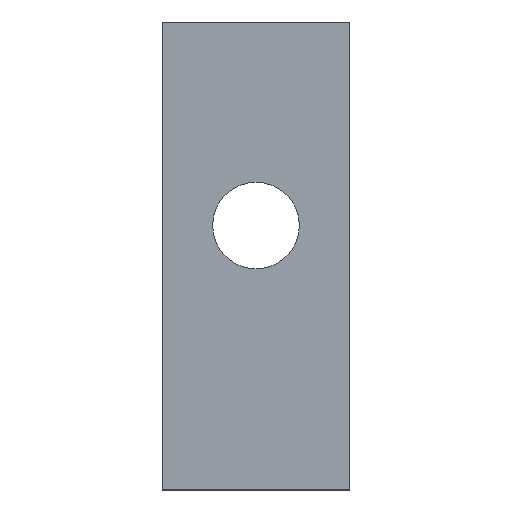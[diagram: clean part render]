
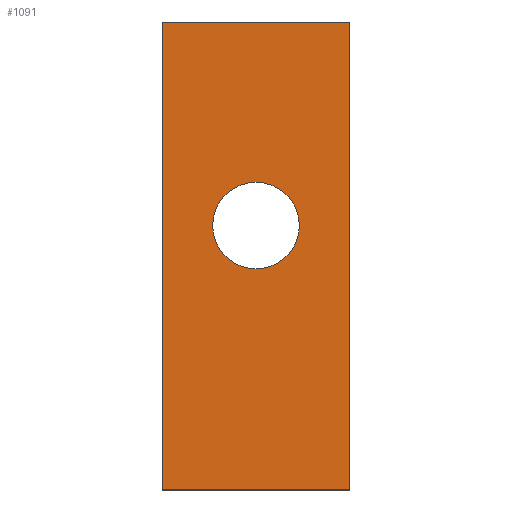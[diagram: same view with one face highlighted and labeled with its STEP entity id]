
A CAD part, left-side view. The second image highlights one B-rep face of the part: STEP entity #1091.
In plain terms, the highlighted planar face has unit normal (-1, 0, 0).
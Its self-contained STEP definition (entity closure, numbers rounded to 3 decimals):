
#16 = AXIS2_PLACEMENT_3D ( 'NONE', #23, #648, #102 ) ;
#21 = CARTESIAN_POINT ( 'NONE',  ( 0., 0., 0. ) ) ;
#23 = CARTESIAN_POINT ( 'NONE',  ( 0., 8., -20. ) ) ;
#26 = CARTESIAN_POINT ( 'NONE',  ( 0., 0., -20. ) ) ;
#37 = VECTOR ( 'NONE', #734, 1000. ) ;
#58 = LINE ( 'NONE', #183, #741 ) ;
#77 = EDGE_LOOP ( 'NONE', ( #1006, #1084 ) ) ;
#79 = DIRECTION ( 'NONE',  ( 0., -1., 0. ) ) ;
#102 = DIRECTION ( 'NONE',  ( 0., 0., -1. ) ) ;
#105 = CARTESIAN_POINT ( 'NONE',  ( 0., 8., 0. ) ) ;
#147 = EDGE_CURVE ( 'NONE', #252, #1057, #231, .T. ) ;
#169 = CIRCLE ( 'NONE', #563, 1.85 ) ;
#179 = VERTEX_POINT ( 'NONE', #915 ) ;
#180 = EDGE_CURVE ( 'NONE', #179, #707, #838, .T. ) ;
#183 = CARTESIAN_POINT ( 'NONE',  ( 0., 8., -20. ) ) ;
#225 = LINE ( 'NONE', #261, #1144 ) ;
#231 = CIRCLE ( 'NONE', #689, 1.85 ) ;
#252 = VERTEX_POINT ( 'NONE', #434 ) ;
#261 = CARTESIAN_POINT ( 'NONE',  ( 0., 8., 0. ) ) ;
#434 = CARTESIAN_POINT ( 'NONE',  ( 0., 4., -10.55 ) ) ;
#442 = DIRECTION ( 'NONE',  ( -1., 0., 0. ) ) ;
#541 = LINE ( 'NONE', #26, #37 ) ;
#563 = AXIS2_PLACEMENT_3D ( 'NONE', #961, #442, #1049 ) ;
#569 = FACE_BOUND ( 'NONE', #77, .T. ) ;
#585 = ORIENTED_EDGE ( 'NONE', *, *, #180, .T. ) ;
#602 = CARTESIAN_POINT ( 'NONE',  ( 0., 0., -20. ) ) ;
#612 = ORIENTED_EDGE ( 'NONE', *, *, #1126, .T. ) ;
#648 = DIRECTION ( 'NONE',  ( 1., 0., 0. ) ) ;
#689 = AXIS2_PLACEMENT_3D ( 'NONE', #870, #863, #858 ) ;
#707 = VERTEX_POINT ( 'NONE', #602 ) ;
#719 = CARTESIAN_POINT ( 'NONE',  ( 0., 4., -6.85 ) ) ;
#734 = DIRECTION ( 'NONE',  ( 0., 0., 1. ) ) ;
#739 = VECTOR ( 'NONE', #780, 1000. ) ;
#741 = VECTOR ( 'NONE', #897, 1000. ) ;
#765 = FACE_OUTER_BOUND ( 'NONE', #783, .T. ) ;
#780 = DIRECTION ( 'NONE',  ( 0., -1., 0. ) ) ;
#783 = EDGE_LOOP ( 'NONE', ( #612, #916, #828, #585 ) ) ;
#822 = EDGE_CURVE ( 'NONE', #1057, #252, #169, .T. ) ;
#828 = ORIENTED_EDGE ( 'NONE', *, *, #1103, .F. ) ;
#838 = LINE ( 'NONE', #853, #739 ) ;
#853 = CARTESIAN_POINT ( 'NONE',  ( 0., 8., -20. ) ) ;
#858 = DIRECTION ( 'NONE',  ( 0., 0., 1. ) ) ;
#861 = EDGE_CURVE ( 'NONE', #1131, #1073, #225, .T. ) ;
#863 = DIRECTION ( 'NONE',  ( -1., 0., 0. ) ) ;
#870 = CARTESIAN_POINT ( 'NONE',  ( 0., 4., -8.7 ) ) ;
#897 = DIRECTION ( 'NONE',  ( 0., 0., 1. ) ) ;
#915 = CARTESIAN_POINT ( 'NONE',  ( 0., 8., -20. ) ) ;
#916 = ORIENTED_EDGE ( 'NONE', *, *, #861, .F. ) ;
#961 = CARTESIAN_POINT ( 'NONE',  ( 0., 4., -8.7 ) ) ;
#1006 = ORIENTED_EDGE ( 'NONE', *, *, #822, .F. ) ;
#1049 = DIRECTION ( 'NONE',  ( 0., 0., 1. ) ) ;
#1057 = VERTEX_POINT ( 'NONE', #719 ) ;
#1073 = VERTEX_POINT ( 'NONE', #21 ) ;
#1076 = PLANE ( 'NONE',  #16 ) ;
#1084 = ORIENTED_EDGE ( 'NONE', *, *, #147, .F. ) ;
#1091 = ADVANCED_FACE ( 'NONE', ( #569, #765 ), #1076, .F. ) ;
#1103 = EDGE_CURVE ( 'NONE', #179, #1131, #58, .T. ) ;
#1126 = EDGE_CURVE ( 'NONE', #707, #1073, #541, .T. ) ;
#1131 = VERTEX_POINT ( 'NONE', #105 ) ;
#1144 = VECTOR ( 'NONE', #79, 1000. ) ;
